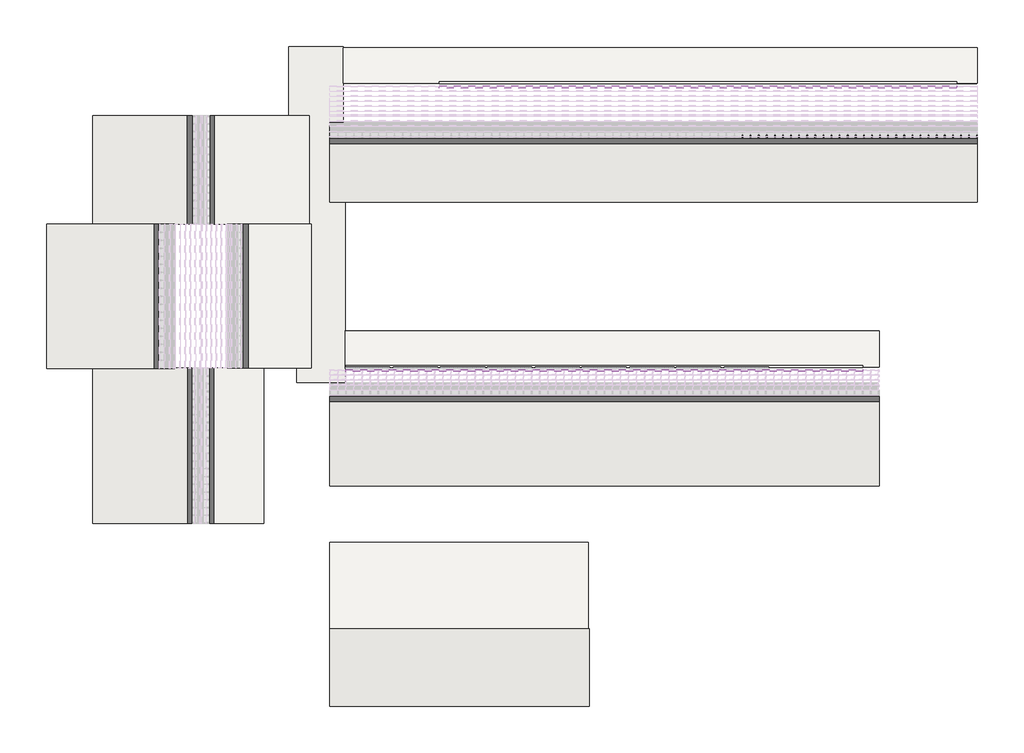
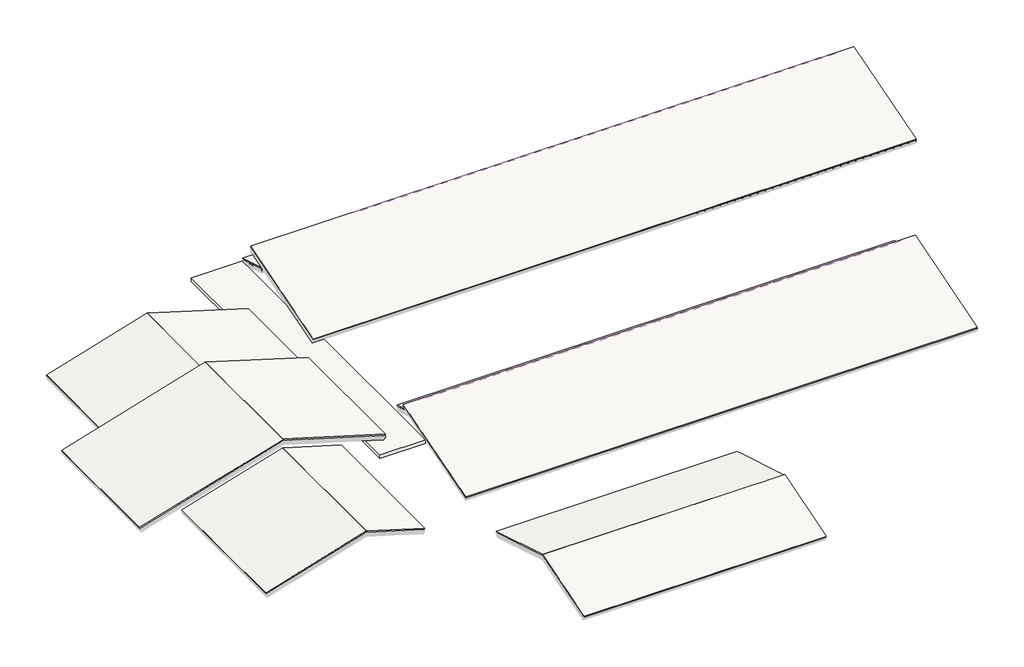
# One storey, part 57 of 57: 70 members, 32 plates, 16 roofs, 1 slab.
"""IFC4 building model written with IfcOpenShell, lengths in millimetres."""

from ifc_helpers import new_model, si_unit, frame, origin, place, context, project, spatial, polyline, outline, extrude, transform, mapped, element, save
from components import rectangular_mullion_31097d0e, rectangular_mullion_28594df3, rectangular_mullion_215ae39a, rectangular_mullion_caibro_3c31e341, rectangular_mullion_caibro_ac6bc083, rectangular_mullion_caibro_74147231, rectangular_mullion_caibro_51e85f04, empty_system_panel_vazio_61b4e04a

model = new_model("IFC4")

# Units and contexts
model_context = context("Model", 3, world=origin())
ifc_project = project(units=[si_unit("LENGTHUNIT", "METRE", prefix="MILLI")], contexts=[model_context])

# Site, building, storey
site = spatial("IfcSite", under=ifc_project)
building = spatial("IfcBuilding", under=site)
storey = spatial("IfcBuildingStorey", under=building, Name="Nível 2", Elevation=4100.0)

# Members
placement = place(None, origin())
rectangular_mullion_shape = rectangular_mullion_31097d0e(model_context)
element("IfcMember", 1, ObjectType="Rectangular Mullion : Ripa", at=placement, inside=storey, context=model_context, shape_type="MappedRepresentation", body=[
    mapped(rectangular_mullion_shape, transform((49646.9556519, 38960.383475, 3453.9015562), x_axis=(0.0, -0.957826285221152, 0.28734788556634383), y_axis=(0.0, -0.28734788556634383, -0.957826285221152), z_axis=(1.0, 0.0, 0.0))),
])
element("IfcMember", 2, ObjectType="Rectangular Mullion : Ripa", at=placement, inside=storey, context=model_context, shape_type="MappedRepresentation", body=[
    mapped(rectangular_mullion_shape, transform((49646.9556519, 38596.3300611, 3563.1175804), x_axis=(0.0, -0.957826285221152, 0.28734788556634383), y_axis=(0.0, -0.28734788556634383, -0.957826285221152), z_axis=(1.0, 0.0, 0.0))),
])
element("IfcMember", 3, ObjectType="Rectangular Mullion : Ripa", at=placement, inside=storey, context=model_context, shape_type="MappedRepresentation", body=[
    mapped(rectangular_mullion_shape, transform((49646.9556519, 38232.2766472, 3672.3336045), x_axis=(0.0, -0.957826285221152, 0.28734788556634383), y_axis=(0.0, -0.28734788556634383, -0.957826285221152), z_axis=(1.0, 0.0, 0.0))),
])
element("IfcMember", 4, ObjectType="Rectangular Mullion : Ripa", at=placement, inside=storey, context=model_context, shape_type="MappedRepresentation", body=[
    mapped(rectangular_mullion_shape, transform((49646.9556519, 37868.2232333, 3781.5496287), x_axis=(0.0, -0.957826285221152, 0.28734788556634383), y_axis=(0.0, -0.28734788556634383, -0.957826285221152), z_axis=(1.0, 0.0, 0.0))),
])
element("IfcMember", 5, ObjectType="Rectangular Mullion : Ripa", at=placement, inside=storey, context=model_context, shape_type="MappedRepresentation", body=[
    mapped(rectangular_mullion_shape, transform((49646.9556519, 37504.1698194, 3890.7656529), x_axis=(0.0, -0.957826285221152, 0.28734788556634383), y_axis=(0.0, -0.28734788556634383, -0.957826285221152), z_axis=(1.0, 0.0, 0.0))),
])
element("IfcMember", 6, ObjectType="Rectangular Mullion : Ripa", at=placement, inside=storey, context=model_context, shape_type="MappedRepresentation", body=[
    mapped(rectangular_mullion_shape, transform((49646.9556519, 37140.1164055, 3999.981677), x_axis=(0.0, -0.957826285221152, 0.28734788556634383), y_axis=(0.0, -0.28734788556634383, -0.957826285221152), z_axis=(1.0, 0.0, 0.0))),
])
element("IfcMember", 7, ObjectType="Rectangular Mullion : Ripa", at=placement, inside=storey, context=model_context, shape_type="MappedRepresentation", body=[
    mapped(rectangular_mullion_shape, transform((49646.9556519, 36776.0629917, 4109.1977012), x_axis=(0.0, -0.957826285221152, 0.28734788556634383), y_axis=(0.0, -0.28734788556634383, -0.957826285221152), z_axis=(1.0, 0.0, 0.0))),
])
rectangular_mullion_2_shape = rectangular_mullion_28594df3(model_context)
element("IfcMember", 8, ObjectType="Rectangular Mullion : Terça", at=placement, inside=storey, context=model_context, shape_type="MappedRepresentation", body=[
    mapped(rectangular_mullion_2_shape, transform((49646.9556519, 36776.0629917, 3983.9140231), x_axis=(0.0, -0.957826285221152, 0.28734788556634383), y_axis=(0.0, -0.28734788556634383, -0.957826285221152), z_axis=(1.0, 0.0, 0.0))),
])
rectangular_mullion_3_shape = rectangular_mullion_215ae39a(model_context)
element("IfcMember", 9, ObjectType="Rectangular Mullion : Terça", at=placement, inside=storey, context=model_context, shape_type="MappedRepresentation", body=[
    mapped(rectangular_mullion_3_shape, transform((49646.9556519, 38404.3676765, 3495.4226176), x_axis=(0.0, -0.957826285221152, 0.28734788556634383), y_axis=(0.0, -0.28734788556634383, -0.957826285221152), z_axis=(1.0, 0.0, 0.0))),
])
element("IfcMember", 10, ObjectType="Rectangular Mullion : Terça", at=placement, inside=storey, context=model_context, shape_type="MappedRepresentation", body=[
    mapped(rectangular_mullion_3_shape, transform((49646.9556519, 38074.1955974, 3594.4742414), x_axis=(0.0, -0.957826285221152, 0.28734788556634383), y_axis=(0.0, -0.28734788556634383, -0.957826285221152), z_axis=(1.0, 0.0, 0.0))),
])
rectangular_mullion_caibro_shape = rectangular_mullion_caibro_3c31e341(model_context)
element("IfcMember", 11, ObjectType="Rectangular Mullion : Caibro", at=placement, inside=storey, context=model_context, shape_type="MappedRepresentation", body=[
    mapped(rectangular_mullion_caibro_shape, transform((49646.9556519, 36560.5418609, 6394.8354824), x_axis=(1.0, 0.0, 0.0), y_axis=(0.0, 0.2873478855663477, -0.9578262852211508), z_axis=(0.0, 0.9578262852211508, 0.2873478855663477))),
])
rectangular_mullion_caibro_2_shape = rectangular_mullion_caibro_ac6bc083(model_context)
element("IfcMember", 12, ObjectType="Rectangular Mullion : Caibro", at=placement, inside=storey, context=model_context, shape_type="MappedRepresentation", body=[
    mapped(rectangular_mullion_caibro_2_shape, transform((32268.9258282, 36560.5418609, 6394.8354824), x_axis=(1.0, 0.0, 0.0), y_axis=(0.0, 0.2873478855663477, -0.9578262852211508), z_axis=(0.0, 0.9578262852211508, 0.2873478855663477))),
])
element("IfcMember", 13, ObjectType="Rectangular Mullion : Caibro", at=placement, inside=storey, context=model_context, shape_type="MappedRepresentation", body=[
    mapped(rectangular_mullion_caibro_2_shape, transform((32867.306167, 36560.5418609, 6394.8354824), x_axis=(1.0, 0.0, 0.0), y_axis=(0.0, 0.2873478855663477, -0.9578262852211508), z_axis=(0.0, 0.9578262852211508, 0.2873478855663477))),
])
element("IfcMember", 14, ObjectType="Rectangular Mullion : Caibro", at=placement, inside=storey, context=model_context, shape_type="MappedRepresentation", body=[
    mapped(rectangular_mullion_caibro_2_shape, transform((33465.6865057, 36560.5418609, 6394.8354824), x_axis=(1.0, 0.0, 0.0), y_axis=(0.0, 0.2873478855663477, -0.9578262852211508), z_axis=(0.0, 0.9578262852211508, 0.2873478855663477))),
])
element("IfcMember", 15, ObjectType="Rectangular Mullion : Caibro", at=placement, inside=storey, context=model_context, shape_type="MappedRepresentation", body=[
    mapped(rectangular_mullion_caibro_2_shape, transform((34064.0668444, 36560.5418609, 6394.8354824), x_axis=(1.0, 0.0, 0.0), y_axis=(0.0, 0.2873478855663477, -0.9578262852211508), z_axis=(0.0, 0.9578262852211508, 0.2873478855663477))),
])
element("IfcMember", 16, ObjectType="Rectangular Mullion : Caibro", at=placement, inside=storey, context=model_context, shape_type="MappedRepresentation", body=[
    mapped(rectangular_mullion_caibro_2_shape, transform((34662.4471832, 36560.5418609, 6394.8354824), x_axis=(1.0, 0.0, 0.0), y_axis=(0.0, 0.2873478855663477, -0.9578262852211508), z_axis=(0.0, 0.9578262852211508, 0.2873478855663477))),
])
element("IfcMember", 17, ObjectType="Rectangular Mullion : Caibro", at=placement, inside=storey, context=model_context, shape_type="MappedRepresentation", body=[
    mapped(rectangular_mullion_caibro_2_shape, transform((35260.8275219, 36560.5418609, 6394.8354824), x_axis=(1.0, 0.0, 0.0), y_axis=(0.0, 0.2873478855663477, -0.9578262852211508), z_axis=(0.0, 0.9578262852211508, 0.2873478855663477))),
])
element("IfcMember", 18, ObjectType="Rectangular Mullion : Caibro", at=placement, inside=storey, context=model_context, shape_type="MappedRepresentation", body=[
    mapped(rectangular_mullion_caibro_2_shape, transform((35859.2078607, 36560.5418609, 6394.8354824), x_axis=(1.0, 0.0, 0.0), y_axis=(0.0, 0.2873478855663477, -0.9578262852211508), z_axis=(0.0, 0.9578262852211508, 0.2873478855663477))),
])
element("IfcMember", 19, ObjectType="Rectangular Mullion : Caibro", at=placement, inside=storey, context=model_context, shape_type="MappedRepresentation", body=[
    mapped(rectangular_mullion_caibro_2_shape, transform((36457.5881994, 36560.5418609, 6394.8354824), x_axis=(1.0, 0.0, 0.0), y_axis=(0.0, 0.2873478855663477, -0.9578262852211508), z_axis=(0.0, 0.9578262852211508, 0.2873478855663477))),
])
element("IfcMember", 20, ObjectType="Rectangular Mullion : Caibro", at=placement, inside=storey, context=model_context, shape_type="MappedRepresentation", body=[
    mapped(rectangular_mullion_caibro_2_shape, transform((37055.9685381, 36560.5418609, 6394.8354824), x_axis=(1.0, 0.0, 0.0), y_axis=(0.0, 0.2873478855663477, -0.9578262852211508), z_axis=(0.0, 0.9578262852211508, 0.2873478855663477))),
])
element("IfcMember", 21, ObjectType="Rectangular Mullion : Caibro", at=placement, inside=storey, context=model_context, shape_type="MappedRepresentation", body=[
    mapped(rectangular_mullion_caibro_2_shape, transform((37654.3488769, 36560.5418609, 6394.8354824), x_axis=(1.0, 0.0, 0.0), y_axis=(0.0, 0.2873478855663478, -0.9578262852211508), z_axis=(0.0, 0.9578262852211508, 0.2873478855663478))),
])
element("IfcMember", 22, ObjectType="Rectangular Mullion : Caibro", at=placement, inside=storey, context=model_context, shape_type="MappedRepresentation", body=[
    mapped(rectangular_mullion_caibro_2_shape, transform((38252.7292156, 36560.5418609, 6394.8354824), x_axis=(1.0, 0.0, 0.0), y_axis=(0.0, 0.2873478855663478, -0.9578262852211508), z_axis=(0.0, 0.9578262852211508, 0.2873478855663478))),
])
element("IfcMember", 23, ObjectType="Rectangular Mullion : Caibro", at=placement, inside=storey, context=model_context, shape_type="MappedRepresentation", body=[
    mapped(rectangular_mullion_caibro_2_shape, transform((38851.1095543, 36560.5418609, 6394.8354824), x_axis=(1.0, 0.0, 0.0), y_axis=(0.0, 0.2873478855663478, -0.9578262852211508), z_axis=(0.0, 0.9578262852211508, 0.2873478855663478))),
])
element("IfcMember", 24, ObjectType="Rectangular Mullion : Caibro", at=placement, inside=storey, context=model_context, shape_type="MappedRepresentation", body=[
    mapped(rectangular_mullion_caibro_2_shape, transform((39449.4898931, 36560.5418609, 6394.8354824), x_axis=(1.0, 0.0, 0.0), y_axis=(0.0, 0.2873478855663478, -0.9578262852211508), z_axis=(0.0, 0.9578262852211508, 0.2873478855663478))),
])
element("IfcMember", 25, ObjectType="Rectangular Mullion : Caibro", at=placement, inside=storey, context=model_context, shape_type="MappedRepresentation", body=[
    mapped(rectangular_mullion_caibro_2_shape, transform((40047.8702318, 36560.5418609, 6394.8354824), x_axis=(1.0, 0.0, 0.0), y_axis=(0.0, 0.2873478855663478, -0.9578262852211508), z_axis=(0.0, 0.9578262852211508, 0.2873478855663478))),
])
element("IfcMember", 26, ObjectType="Rectangular Mullion : Caibro", at=placement, inside=storey, context=model_context, shape_type="MappedRepresentation", body=[
    mapped(rectangular_mullion_caibro_2_shape, transform((40646.2505705, 36560.5418609, 6394.8354824), x_axis=(1.0, 0.0, 0.0), y_axis=(0.0, 0.2873478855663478, -0.9578262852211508), z_axis=(0.0, 0.9578262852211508, 0.2873478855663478))),
])
element("IfcMember", 27, ObjectType="Rectangular Mullion : Caibro", at=placement, inside=storey, context=model_context, shape_type="MappedRepresentation", body=[
    mapped(rectangular_mullion_caibro_2_shape, transform((41244.6309093, 36560.5418609, 6394.8354824), x_axis=(1.0, 0.0, 0.0), y_axis=(0.0, 0.2873478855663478, -0.9578262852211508), z_axis=(0.0, 0.9578262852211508, 0.2873478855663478))),
])
element("IfcMember", 28, ObjectType="Rectangular Mullion : Caibro", at=placement, inside=storey, context=model_context, shape_type="MappedRepresentation", body=[
    mapped(rectangular_mullion_caibro_2_shape, transform((41843.011248, 36560.5418609, 6394.8354824), x_axis=(1.0, 0.0, 0.0), y_axis=(0.0, 0.2873478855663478, -0.9578262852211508), z_axis=(0.0, 0.9578262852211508, 0.2873478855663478))),
])
element("IfcMember", 29, ObjectType="Rectangular Mullion : Caibro", at=placement, inside=storey, context=model_context, shape_type="MappedRepresentation", body=[
    mapped(rectangular_mullion_caibro_2_shape, transform((42441.3915867, 36560.5418609, 6394.8354824), x_axis=(1.0, 0.0, 0.0), y_axis=(0.0, 0.2873478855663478, -0.9578262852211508), z_axis=(0.0, 0.9578262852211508, 0.2873478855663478))),
])
element("IfcMember", 30, ObjectType="Rectangular Mullion : Caibro", at=placement, inside=storey, context=model_context, shape_type="MappedRepresentation", body=[
    mapped(rectangular_mullion_caibro_2_shape, transform((43039.7719255, 36560.5418609, 6394.8354824), x_axis=(1.0, 0.0, 0.0), y_axis=(0.0, 0.2873478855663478, -0.9578262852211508), z_axis=(0.0, 0.9578262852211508, 0.2873478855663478))),
])
element("IfcMember", 31, ObjectType="Rectangular Mullion : Caibro", at=placement, inside=storey, context=model_context, shape_type="MappedRepresentation", body=[
    mapped(rectangular_mullion_caibro_2_shape, transform((43638.1522642, 36560.5418609, 6394.8354824), x_axis=(1.0, 0.0, 0.0), y_axis=(0.0, 0.2873478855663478, -0.9578262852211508), z_axis=(0.0, 0.9578262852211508, 0.2873478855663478))),
])
element("IfcMember", 32, ObjectType="Rectangular Mullion : Caibro", at=placement, inside=storey, context=model_context, shape_type="MappedRepresentation", body=[
    mapped(rectangular_mullion_caibro_2_shape, transform((44236.5326029, 36560.5418609, 6394.8354824), x_axis=(1.0, 0.0, 0.0), y_axis=(0.0, 0.2873478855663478, -0.9578262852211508), z_axis=(0.0, 0.9578262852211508, 0.2873478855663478))),
])
element("IfcMember", 33, ObjectType="Rectangular Mullion : Caibro", at=placement, inside=storey, context=model_context, shape_type="MappedRepresentation", body=[
    mapped(rectangular_mullion_caibro_2_shape, transform((44834.9129417, 36560.5418609, 6394.8354824), x_axis=(1.0, 0.0, 0.0), y_axis=(0.0, 0.2873478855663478, -0.9578262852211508), z_axis=(0.0, 0.9578262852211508, 0.2873478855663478))),
])
element("IfcMember", 34, ObjectType="Rectangular Mullion : Caibro", at=placement, inside=storey, context=model_context, shape_type="MappedRepresentation", body=[
    mapped(rectangular_mullion_caibro_2_shape, transform((45433.2932804, 36560.5418609, 6394.8354824), x_axis=(1.0, 0.0, 0.0), y_axis=(0.0, 0.2873478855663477, -0.9578262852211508), z_axis=(0.0, 0.9578262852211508, 0.2873478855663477))),
])
element("IfcMember", 35, ObjectType="Rectangular Mullion : Caibro", at=placement, inside=storey, context=model_context, shape_type="MappedRepresentation", body=[
    mapped(rectangular_mullion_caibro_2_shape, transform((46031.6736191, 36560.5418609, 6394.8354824), x_axis=(1.0, 0.0, 0.0), y_axis=(0.0, 0.2873478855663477, -0.9578262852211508), z_axis=(0.0, 0.9578262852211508, 0.2873478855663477))),
])
element("IfcMember", 36, ObjectType="Rectangular Mullion : Caibro", at=placement, inside=storey, context=model_context, shape_type="MappedRepresentation", body=[
    mapped(rectangular_mullion_caibro_2_shape, transform((46630.0539579, 36560.5418609, 6394.8354824), x_axis=(1.0, 0.0, 0.0), y_axis=(0.0, 0.2873478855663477, -0.9578262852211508), z_axis=(0.0, 0.9578262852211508, 0.2873478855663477))),
])
element("IfcMember", 37, ObjectType="Rectangular Mullion : Caibro", at=placement, inside=storey, context=model_context, shape_type="MappedRepresentation", body=[
    mapped(rectangular_mullion_caibro_2_shape, transform((47228.4342966, 36560.5418609, 6394.8354824), x_axis=(1.0, 0.0, 0.0), y_axis=(0.0, 0.2873478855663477, -0.9578262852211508), z_axis=(0.0, 0.9578262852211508, 0.2873478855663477))),
])
element("IfcMember", 38, ObjectType="Rectangular Mullion : Caibro", at=placement, inside=storey, context=model_context, shape_type="MappedRepresentation", body=[
    mapped(rectangular_mullion_caibro_2_shape, transform((47826.8146353, 36560.5418609, 6394.8354824), x_axis=(1.0, 0.0, 0.0), y_axis=(0.0, 0.2873478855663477, -0.9578262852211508), z_axis=(0.0, 0.9578262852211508, 0.2873478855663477))),
])
element("IfcMember", 39, ObjectType="Rectangular Mullion : Caibro", at=placement, inside=storey, context=model_context, shape_type="MappedRepresentation", body=[
    mapped(rectangular_mullion_caibro_2_shape, transform((48425.1949741, 36560.5418609, 6394.8354824), x_axis=(1.0, 0.0, 0.0), y_axis=(0.0, 0.2873478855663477, -0.9578262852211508), z_axis=(0.0, 0.9578262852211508, 0.2873478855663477))),
])
element("IfcMember", 40, ObjectType="Rectangular Mullion : Caibro", at=placement, inside=storey, context=model_context, shape_type="MappedRepresentation", body=[
    mapped(rectangular_mullion_caibro_2_shape, transform((49023.5753128, 36560.5418609, 6394.8354824), x_axis=(1.0, 0.0, 0.0), y_axis=(0.0, 0.2873478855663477, -0.9578262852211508), z_axis=(0.0, 0.9578262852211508, 0.2873478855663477))),
])
rectangular_mullion_caibro_3_shape = rectangular_mullion_caibro_74147231(model_context)
element("IfcMember", 41, ObjectType="Rectangular Mullion : Caibro", at=placement, inside=storey, context=model_context, shape_type="MappedRepresentation", body=[
    mapped(rectangular_mullion_caibro_3_shape, transform((49646.9556519, 39372.3282031, 3330.3181378), x_axis=(1.0, 0.0, 0.0), y_axis=(0.0, -0.2873478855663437, -0.9578262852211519), z_axis=(0.0, 0.9578262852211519, -0.2873478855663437))),
])
rectangular_mullion_caibro_4_shape = rectangular_mullion_caibro_51e85f04(model_context)
element("IfcMember", 42, ObjectType="Rectangular Mullion : Caibro", at=placement, inside=storey, context=model_context, shape_type="MappedRepresentation", body=[
    mapped(rectangular_mullion_caibro_4_shape, transform((49028.659106, 36776.0629917, 4109.1977012), x_axis=(-1.0, 0.0, 0.0), y_axis=(0.0, -0.2873478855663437, -0.9578262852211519), z_axis=(0.0, -0.9578262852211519, 0.2873478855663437))),
])
element("IfcMember", 43, ObjectType="Rectangular Mullion : Caibro", at=placement, inside=storey, context=model_context, shape_type="MappedRepresentation", body=[
    mapped(rectangular_mullion_caibro_4_shape, transform((48435.3625604, 36776.0629917, 4109.1977012), x_axis=(-1.0, 0.0, 0.0), y_axis=(0.0, -0.2873478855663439, -0.9578262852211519), z_axis=(0.0, -0.9578262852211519, 0.2873478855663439))),
])
element("IfcMember", 44, ObjectType="Rectangular Mullion : Caibro", at=placement, inside=storey, context=model_context, shape_type="MappedRepresentation", body=[
    mapped(rectangular_mullion_caibro_4_shape, transform((47842.0660149, 36776.0629917, 4109.1977012), x_axis=(-1.0, 0.0, 0.0), y_axis=(0.0, -0.2873478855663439, -0.9578262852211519), z_axis=(0.0, -0.9578262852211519, 0.2873478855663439))),
])
element("IfcMember", 45, ObjectType="Rectangular Mullion : Caibro", at=placement, inside=storey, context=model_context, shape_type="MappedRepresentation", body=[
    mapped(rectangular_mullion_caibro_4_shape, transform((47248.7694693, 36776.0629917, 4109.1977012), x_axis=(-1.0, 0.0, 0.0), y_axis=(0.0, -0.2873478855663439, -0.9578262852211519), z_axis=(0.0, -0.9578262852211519, 0.2873478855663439))),
])
element("IfcMember", 46, ObjectType="Rectangular Mullion : Caibro", at=placement, inside=storey, context=model_context, shape_type="MappedRepresentation", body=[
    mapped(rectangular_mullion_caibro_4_shape, transform((46655.4729238, 36776.0629917, 4109.1977012), x_axis=(-1.0, 0.0, 0.0), y_axis=(0.0, -0.2873478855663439, -0.9578262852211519), z_axis=(0.0, -0.9578262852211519, 0.2873478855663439))),
])
element("IfcMember", 47, ObjectType="Rectangular Mullion : Caibro", at=placement, inside=storey, context=model_context, shape_type="MappedRepresentation", body=[
    mapped(rectangular_mullion_caibro_4_shape, transform((46062.1763782, 36776.0629917, 4109.1977012), x_axis=(-1.0, 0.0, 0.0), y_axis=(0.0, -0.2873478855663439, -0.9578262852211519), z_axis=(0.0, -0.9578262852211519, 0.2873478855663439))),
])
element("IfcMember", 48, ObjectType="Rectangular Mullion : Caibro", at=placement, inside=storey, context=model_context, shape_type="MappedRepresentation", body=[
    mapped(rectangular_mullion_caibro_4_shape, transform((45468.8798327, 36776.0629917, 4109.1977012), x_axis=(-1.0, 0.0, 0.0), y_axis=(0.0, -0.2873478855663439, -0.9578262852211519), z_axis=(0.0, -0.9578262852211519, 0.2873478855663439))),
])
element("IfcMember", 49, ObjectType="Rectangular Mullion : Caibro", at=placement, inside=storey, context=model_context, shape_type="MappedRepresentation", body=[
    mapped(rectangular_mullion_caibro_4_shape, transform((44875.5832871, 36776.0629917, 4109.1977012), x_axis=(-1.0, 0.0, 0.0), y_axis=(0.0, -0.2873478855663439, -0.9578262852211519), z_axis=(0.0, -0.9578262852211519, 0.2873478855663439))),
])
element("IfcMember", 50, ObjectType="Rectangular Mullion : Caibro", at=placement, inside=storey, context=model_context, shape_type="MappedRepresentation", body=[
    mapped(rectangular_mullion_caibro_4_shape, transform((44282.2867416, 36776.0629917, 4109.1977012), x_axis=(-1.0, 0.0, 0.0), y_axis=(0.0, -0.2873478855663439, -0.9578262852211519), z_axis=(0.0, -0.9578262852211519, 0.2873478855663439))),
])
element("IfcMember", 51, ObjectType="Rectangular Mullion : Caibro", at=placement, inside=storey, context=model_context, shape_type="MappedRepresentation", body=[
    mapped(rectangular_mullion_caibro_4_shape, transform((43688.990196, 36776.0629917, 4109.1977012), x_axis=(-1.0, 0.0, 0.0), y_axis=(0.0, -0.2873478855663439, -0.9578262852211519), z_axis=(0.0, -0.9578262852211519, 0.2873478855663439))),
])
element("IfcMember", 52, ObjectType="Rectangular Mullion : Caibro", at=placement, inside=storey, context=model_context, shape_type="MappedRepresentation", body=[
    mapped(rectangular_mullion_caibro_4_shape, transform((43095.6936505, 36776.0629917, 4109.1977012), x_axis=(-1.0, 0.0, 0.0), y_axis=(0.0, -0.2873478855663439, -0.9578262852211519), z_axis=(0.0, -0.9578262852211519, 0.2873478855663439))),
])
element("IfcMember", 53, ObjectType="Rectangular Mullion : Caibro", at=placement, inside=storey, context=model_context, shape_type="MappedRepresentation", body=[
    mapped(rectangular_mullion_caibro_4_shape, transform((42502.3971049, 36776.0629917, 4109.1977012), x_axis=(-1.0, 0.0, 0.0), y_axis=(0.0, -0.2873478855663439, -0.9578262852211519), z_axis=(0.0, -0.9578262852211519, 0.2873478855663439))),
])
element("IfcMember", 54, ObjectType="Rectangular Mullion : Caibro", at=placement, inside=storey, context=model_context, shape_type="MappedRepresentation", body=[
    mapped(rectangular_mullion_caibro_4_shape, transform((41909.1005593, 36776.0629917, 4109.1977012), x_axis=(-1.0, 0.0, 0.0), y_axis=(0.0, -0.2873478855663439, -0.9578262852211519), z_axis=(0.0, -0.9578262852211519, 0.2873478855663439))),
])
element("IfcMember", 55, ObjectType="Rectangular Mullion : Caibro", at=placement, inside=storey, context=model_context, shape_type="MappedRepresentation", body=[
    mapped(rectangular_mullion_caibro_4_shape, transform((41315.8040138, 36776.0629917, 4109.1977012), x_axis=(-1.0, 0.0, 0.0), y_axis=(0.0, -0.2873478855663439, -0.9578262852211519), z_axis=(0.0, -0.9578262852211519, 0.2873478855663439))),
])
element("IfcMember", 56, ObjectType="Rectangular Mullion : Caibro", at=placement, inside=storey, context=model_context, shape_type="MappedRepresentation", body=[
    mapped(rectangular_mullion_caibro_4_shape, transform((40722.5074682, 36776.0629917, 4109.1977012), x_axis=(-1.0, 0.0, 0.0), y_axis=(0.0, -0.2873478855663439, -0.9578262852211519), z_axis=(0.0, -0.9578262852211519, 0.2873478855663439))),
])
element("IfcMember", 57, ObjectType="Rectangular Mullion : Caibro", at=placement, inside=storey, context=model_context, shape_type="MappedRepresentation", body=[
    mapped(rectangular_mullion_caibro_4_shape, transform((40129.2109227, 36776.0629917, 4109.1977012), x_axis=(-1.0, 0.0, 0.0), y_axis=(0.0, -0.2873478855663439, -0.9578262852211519), z_axis=(0.0, -0.9578262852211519, 0.2873478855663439))),
])
element("IfcMember", 58, ObjectType="Rectangular Mullion : Caibro", at=placement, inside=storey, context=model_context, shape_type="MappedRepresentation", body=[
    mapped(rectangular_mullion_caibro_4_shape, transform((39535.9143771, 36776.0629917, 4109.1977012), x_axis=(-1.0, 0.0, 0.0), y_axis=(0.0, -0.2873478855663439, -0.9578262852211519), z_axis=(0.0, -0.9578262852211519, 0.2873478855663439))),
])
element("IfcMember", 59, ObjectType="Rectangular Mullion : Caibro", at=placement, inside=storey, context=model_context, shape_type="MappedRepresentation", body=[
    mapped(rectangular_mullion_caibro_4_shape, transform((38942.6178316, 36776.0629917, 4109.1977012), x_axis=(-1.0, 0.0, 0.0), y_axis=(0.0, -0.2873478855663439, -0.9578262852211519), z_axis=(0.0, -0.9578262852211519, 0.2873478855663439))),
])
element("IfcMember", 60, ObjectType="Rectangular Mullion : Caibro", at=placement, inside=storey, context=model_context, shape_type="MappedRepresentation", body=[
    mapped(rectangular_mullion_caibro_4_shape, transform((38349.321286, 36776.0629917, 4109.1977012), x_axis=(-1.0, 0.0, 0.0), y_axis=(0.0, -0.2873478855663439, -0.9578262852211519), z_axis=(0.0, -0.9578262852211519, 0.2873478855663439))),
])
element("IfcMember", 61, ObjectType="Rectangular Mullion : Caibro", at=placement, inside=storey, context=model_context, shape_type="MappedRepresentation", body=[
    mapped(rectangular_mullion_caibro_4_shape, transform((37756.0247405, 36776.0629917, 4109.1977012), x_axis=(-1.0, 0.0, 0.0), y_axis=(0.0, -0.2873478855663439, -0.9578262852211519), z_axis=(0.0, -0.9578262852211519, 0.2873478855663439))),
])
element("IfcMember", 62, ObjectType="Rectangular Mullion : Caibro", at=placement, inside=storey, context=model_context, shape_type="MappedRepresentation", body=[
    mapped(rectangular_mullion_caibro_4_shape, transform((37162.7281949, 36776.0629917, 4109.1977012), x_axis=(-1.0, 0.0, 0.0), y_axis=(0.0, -0.2873478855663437, -0.9578262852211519), z_axis=(0.0, -0.9578262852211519, 0.2873478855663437))),
])
element("IfcMember", 63, ObjectType="Rectangular Mullion : Caibro", at=placement, inside=storey, context=model_context, shape_type="MappedRepresentation", body=[
    mapped(rectangular_mullion_caibro_4_shape, transform((36569.4316494, 36776.0629917, 4109.1977012), x_axis=(-1.0, 0.0, 0.0), y_axis=(0.0, -0.2873478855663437, -0.9578262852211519), z_axis=(0.0, -0.9578262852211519, 0.2873478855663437))),
])
element("IfcMember", 64, ObjectType="Rectangular Mullion : Caibro", at=placement, inside=storey, context=model_context, shape_type="MappedRepresentation", body=[
    mapped(rectangular_mullion_caibro_4_shape, transform((35976.1351038, 36776.0629917, 4109.1977012), x_axis=(-1.0, 0.0, 0.0), y_axis=(0.0, -0.2873478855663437, -0.9578262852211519), z_axis=(0.0, -0.9578262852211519, 0.2873478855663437))),
])
element("IfcMember", 65, ObjectType="Rectangular Mullion : Caibro", at=placement, inside=storey, context=model_context, shape_type="MappedRepresentation", body=[
    mapped(rectangular_mullion_caibro_4_shape, transform((35382.8385583, 36776.0629917, 4109.1977012), x_axis=(-1.0, 0.0, 0.0), y_axis=(0.0, -0.2873478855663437, -0.9578262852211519), z_axis=(0.0, -0.9578262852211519, 0.2873478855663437))),
])
element("IfcMember", 66, ObjectType="Rectangular Mullion : Caibro", at=placement, inside=storey, context=model_context, shape_type="MappedRepresentation", body=[
    mapped(rectangular_mullion_caibro_4_shape, transform((34789.5420127, 36776.0629917, 4109.1977012), x_axis=(-1.0, 0.0, 0.0), y_axis=(0.0, -0.2873478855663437, -0.9578262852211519), z_axis=(0.0, -0.9578262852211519, 0.2873478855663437))),
])
element("IfcMember", 67, ObjectType="Rectangular Mullion : Caibro", at=placement, inside=storey, context=model_context, shape_type="MappedRepresentation", body=[
    mapped(rectangular_mullion_caibro_4_shape, transform((34196.2454671, 36776.0629917, 4109.1977012), x_axis=(-1.0, 0.0, 0.0), y_axis=(0.0, -0.2873478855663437, -0.9578262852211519), z_axis=(0.0, -0.9578262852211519, 0.2873478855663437))),
])
element("IfcMember", 68, ObjectType="Rectangular Mullion : Caibro", at=placement, inside=storey, context=model_context, shape_type="MappedRepresentation", body=[
    mapped(rectangular_mullion_caibro_4_shape, transform((33602.9489216, 36776.0629917, 4109.1977012), x_axis=(-1.0, 0.0, 0.0), y_axis=(0.0, -0.2873478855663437, -0.9578262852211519), z_axis=(0.0, -0.9578262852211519, 0.2873478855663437))),
])
element("IfcMember", 69, ObjectType="Rectangular Mullion : Caibro", at=placement, inside=storey, context=model_context, shape_type="MappedRepresentation", body=[
    mapped(rectangular_mullion_caibro_4_shape, transform((33009.652376, 36776.0629917, 4109.1977012), x_axis=(-1.0, 0.0, 0.0), y_axis=(0.0, -0.2873478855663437, -0.9578262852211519), z_axis=(0.0, -0.9578262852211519, 0.2873478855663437))),
])
element("IfcMember", 70, ObjectType="Rectangular Mullion : Caibro", at=placement, inside=storey, context=model_context, shape_type="MappedRepresentation", body=[
    mapped(rectangular_mullion_caibro_4_shape, transform((32416.3558305, 36776.0629917, 4109.1977012), x_axis=(-1.0, 0.0, 0.0), y_axis=(0.0, -0.2873478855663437, -0.9578262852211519), z_axis=(0.0, -0.9578262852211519, 0.2873478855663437))),
])

# Plates
empty_system_panel_vazio_shape = empty_system_panel_vazio_61b4e04a(model_context)
element("IfcPlate", 71, ObjectType="Empty System Panel : Vazio", at=placement, inside=storey, context=model_context, shape_type="MappedRepresentation", body=[
    mapped(empty_system_panel_vazio_shape, transform((49325.3073789, 39372.3282031, 3330.3181378), x_axis=(-1.0, 0.0, 0.0), y_axis=(0.0, -0.28734788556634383, -0.957826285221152), z_axis=(0.0, -0.957826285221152, 0.28734788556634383))),
])
element("IfcPlate", 72, ObjectType="Empty System Panel : Vazio", at=placement, inside=storey, context=model_context, shape_type="MappedRepresentation", body=[
    mapped(empty_system_panel_vazio_shape, transform((48732.0108332, 39372.3282031, 3330.3181378), x_axis=(-1.0, 0.0, 0.0), y_axis=(0.0, -0.28734788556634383, -0.957826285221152), z_axis=(0.0, -0.957826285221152, 0.28734788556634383))),
])
element("IfcPlate", 73, ObjectType="Empty System Panel : Vazio", at=placement, inside=storey, context=model_context, shape_type="MappedRepresentation", body=[
    mapped(empty_system_panel_vazio_shape, transform((48138.7142877, 39372.3282031, 3330.3181378), x_axis=(-1.0, 0.0, 0.0), y_axis=(0.0, -0.28734788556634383, -0.957826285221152), z_axis=(0.0, -0.957826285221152, 0.28734788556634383))),
])
element("IfcPlate", 74, ObjectType="Empty System Panel : Vazio", at=placement, inside=storey, context=model_context, shape_type="MappedRepresentation", body=[
    mapped(empty_system_panel_vazio_shape, transform((47545.4177421, 39372.3282031, 3330.3181378), x_axis=(-1.0, 0.0, 0.0), y_axis=(0.0, -0.28734788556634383, -0.957826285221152), z_axis=(0.0, -0.957826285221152, 0.28734788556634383))),
])
element("IfcPlate", 75, ObjectType="Empty System Panel : Vazio", at=placement, inside=storey, context=model_context, shape_type="MappedRepresentation", body=[
    mapped(empty_system_panel_vazio_shape, transform((46952.1211966, 39372.3282031, 3330.3181378), x_axis=(-1.0, 0.0, 0.0), y_axis=(0.0, -0.28734788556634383, -0.957826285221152), z_axis=(0.0, -0.957826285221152, 0.28734788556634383))),
])
element("IfcPlate", 76, ObjectType="Empty System Panel : Vazio", at=placement, inside=storey, context=model_context, shape_type="MappedRepresentation", body=[
    mapped(empty_system_panel_vazio_shape, transform((46358.824651, 39372.3282031, 3330.3181378), x_axis=(-1.0, 0.0, 0.0), y_axis=(0.0, -0.28734788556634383, -0.957826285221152), z_axis=(0.0, -0.957826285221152, 0.28734788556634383))),
])
element("IfcPlate", 77, ObjectType="Empty System Panel : Vazio", at=placement, inside=storey, context=model_context, shape_type="MappedRepresentation", body=[
    mapped(empty_system_panel_vazio_shape, transform((45765.5281054, 39372.3282031, 3330.3181378), x_axis=(-1.0, 0.0, 0.0), y_axis=(0.0, -0.28734788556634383, -0.957826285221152), z_axis=(0.0, -0.957826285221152, 0.28734788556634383))),
])
element("IfcPlate", 78, ObjectType="Empty System Panel : Vazio", at=placement, inside=storey, context=model_context, shape_type="MappedRepresentation", body=[
    mapped(empty_system_panel_vazio_shape, transform((45172.2315599, 39372.3282031, 3330.3181378), x_axis=(-1.0, 0.0, 0.0), y_axis=(0.0, -0.28734788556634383, -0.957826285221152), z_axis=(0.0, -0.957826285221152, 0.28734788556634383))),
])
element("IfcPlate", 79, ObjectType="Empty System Panel : Vazio", at=placement, inside=storey, context=model_context, shape_type="MappedRepresentation", body=[
    mapped(empty_system_panel_vazio_shape, transform((44578.9350143, 39372.3282031, 3330.3181378), x_axis=(-1.0, 0.0, 0.0), y_axis=(0.0, -0.28734788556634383, -0.957826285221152), z_axis=(0.0, -0.957826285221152, 0.28734788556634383))),
])
element("IfcPlate", 80, ObjectType="Empty System Panel : Vazio", at=placement, inside=storey, context=model_context, shape_type="MappedRepresentation", body=[
    mapped(empty_system_panel_vazio_shape, transform((43985.6384688, 39372.3282031, 3330.3181378), x_axis=(-1.0, 0.0, 0.0), y_axis=(0.0, -0.28734788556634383, -0.957826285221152), z_axis=(0.0, -0.957826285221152, 0.28734788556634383))),
])
element("IfcPlate", 81, ObjectType="Empty System Panel : Vazio", at=placement, inside=storey, context=model_context, shape_type="MappedRepresentation", body=[
    mapped(empty_system_panel_vazio_shape, transform((43392.3419232, 39372.3282031, 3330.3181378), x_axis=(-1.0, 0.0, 0.0), y_axis=(0.0, -0.28734788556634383, -0.957826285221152), z_axis=(0.0, -0.957826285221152, 0.28734788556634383))),
])
element("IfcPlate", 82, ObjectType="Empty System Panel : Vazio", at=placement, inside=storey, context=model_context, shape_type="MappedRepresentation", body=[
    mapped(empty_system_panel_vazio_shape, transform((42799.0453777, 39372.3282031, 3330.3181378), x_axis=(-1.0, 0.0, 0.0), y_axis=(0.0, -0.28734788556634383, -0.957826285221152), z_axis=(0.0, -0.957826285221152, 0.28734788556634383))),
])
element("IfcPlate", 83, ObjectType="Empty System Panel : Vazio", at=placement, inside=storey, context=model_context, shape_type="MappedRepresentation", body=[
    mapped(empty_system_panel_vazio_shape, transform((42205.7488321, 39372.3282031, 3330.3181378), x_axis=(-1.0, 0.0, 0.0), y_axis=(0.0, -0.28734788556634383, -0.957826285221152), z_axis=(0.0, -0.957826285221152, 0.28734788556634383))),
])
element("IfcPlate", 84, ObjectType="Empty System Panel : Vazio", at=placement, inside=storey, context=model_context, shape_type="MappedRepresentation", body=[
    mapped(empty_system_panel_vazio_shape, transform((41612.4522866, 39372.3282031, 3330.3181378), x_axis=(-1.0, 0.0, 0.0), y_axis=(0.0, -0.28734788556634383, -0.957826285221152), z_axis=(0.0, -0.957826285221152, 0.28734788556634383))),
])
element("IfcPlate", 85, ObjectType="Empty System Panel : Vazio", at=placement, inside=storey, context=model_context, shape_type="MappedRepresentation", body=[
    mapped(empty_system_panel_vazio_shape, transform((41019.155741, 39372.3282031, 3330.3181378), x_axis=(-1.0, 0.0, 0.0), y_axis=(0.0, -0.28734788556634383, -0.957826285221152), z_axis=(0.0, -0.957826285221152, 0.28734788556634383))),
])
element("IfcPlate", 86, ObjectType="Empty System Panel : Vazio", at=placement, inside=storey, context=model_context, shape_type="MappedRepresentation", body=[
    mapped(empty_system_panel_vazio_shape, transform((40425.8591955, 39372.3282031, 3330.3181378), x_axis=(-1.0, 0.0, 0.0), y_axis=(0.0, -0.28734788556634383, -0.957826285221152), z_axis=(0.0, -0.957826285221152, 0.28734788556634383))),
])
element("IfcPlate", 87, ObjectType="Empty System Panel : Vazio", at=placement, inside=storey, context=model_context, shape_type="MappedRepresentation", body=[
    mapped(empty_system_panel_vazio_shape, transform((39832.5626499, 39372.3282031, 3330.3181378), x_axis=(-1.0, 0.0, 0.0), y_axis=(0.0, -0.28734788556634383, -0.957826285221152), z_axis=(0.0, -0.957826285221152, 0.28734788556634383))),
])
element("IfcPlate", 88, ObjectType="Empty System Panel : Vazio", at=placement, inside=storey, context=model_context, shape_type="MappedRepresentation", body=[
    mapped(empty_system_panel_vazio_shape, transform((39239.2661044, 39372.3282031, 3330.3181378), x_axis=(-1.0, 0.0, 0.0), y_axis=(0.0, -0.28734788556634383, -0.957826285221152), z_axis=(0.0, -0.957826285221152, 0.28734788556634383))),
])
element("IfcPlate", 89, ObjectType="Empty System Panel : Vazio", at=placement, inside=storey, context=model_context, shape_type="MappedRepresentation", body=[
    mapped(empty_system_panel_vazio_shape, transform((38645.9695588, 39372.3282031, 3330.3181378), x_axis=(-1.0, 0.0, 0.0), y_axis=(0.0, -0.28734788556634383, -0.957826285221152), z_axis=(0.0, -0.957826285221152, 0.28734788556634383))),
])
element("IfcPlate", 90, ObjectType="Empty System Panel : Vazio", at=placement, inside=storey, context=model_context, shape_type="MappedRepresentation", body=[
    mapped(empty_system_panel_vazio_shape, transform((38052.6730132, 39372.3282031, 3330.3181378), x_axis=(-1.0, 0.0, 0.0), y_axis=(0.0, -0.28734788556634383, -0.957826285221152), z_axis=(0.0, -0.957826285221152, 0.28734788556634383))),
])
element("IfcPlate", 91, ObjectType="Empty System Panel : Vazio", at=placement, inside=storey, context=model_context, shape_type="MappedRepresentation", body=[
    mapped(empty_system_panel_vazio_shape, transform((37459.3764677, 39372.3282031, 3330.3181378), x_axis=(-1.0, 0.0, 0.0), y_axis=(0.0, -0.28734788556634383, -0.957826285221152), z_axis=(0.0, -0.957826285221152, 0.28734788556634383))),
])
element("IfcPlate", 92, ObjectType="Empty System Panel : Vazio", at=placement, inside=storey, context=model_context, shape_type="MappedRepresentation", body=[
    mapped(empty_system_panel_vazio_shape, transform((36866.0799221, 39372.3282031, 3330.3181378), x_axis=(-1.0, 0.0, 0.0), y_axis=(0.0, -0.28734788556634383, -0.957826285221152), z_axis=(0.0, -0.957826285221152, 0.28734788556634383))),
])
element("IfcPlate", 93, ObjectType="Empty System Panel : Vazio", at=placement, inside=storey, context=model_context, shape_type="MappedRepresentation", body=[
    mapped(empty_system_panel_vazio_shape, transform((36272.7833766, 39372.3282031, 3330.3181378), x_axis=(-1.0, 0.0, 0.0), y_axis=(0.0, -0.28734788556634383, -0.957826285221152), z_axis=(0.0, -0.957826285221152, 0.28734788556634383))),
])
element("IfcPlate", 94, ObjectType="Empty System Panel : Vazio", at=placement, inside=storey, context=model_context, shape_type="MappedRepresentation", body=[
    mapped(empty_system_panel_vazio_shape, transform((35679.486831, 39372.3282031, 3330.3181378), x_axis=(-1.0, 0.0, 0.0), y_axis=(0.0, -0.28734788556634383, -0.957826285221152), z_axis=(0.0, -0.957826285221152, 0.28734788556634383))),
])
element("IfcPlate", 95, ObjectType="Empty System Panel : Vazio", at=placement, inside=storey, context=model_context, shape_type="MappedRepresentation", body=[
    mapped(empty_system_panel_vazio_shape, transform((35086.1902855, 39372.3282031, 3330.3181378), x_axis=(-1.0, 0.0, 0.0), y_axis=(0.0, -0.28734788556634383, -0.957826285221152), z_axis=(0.0, -0.957826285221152, 0.28734788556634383))),
])
element("IfcPlate", 96, ObjectType="Empty System Panel : Vazio", at=placement, inside=storey, context=model_context, shape_type="MappedRepresentation", body=[
    mapped(empty_system_panel_vazio_shape, transform((34492.8937399, 39372.3282031, 3330.3181378), x_axis=(-1.0, 0.0, 0.0), y_axis=(0.0, -0.28734788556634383, -0.957826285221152), z_axis=(0.0, -0.957826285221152, 0.28734788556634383))),
])
element("IfcPlate", 97, ObjectType="Empty System Panel : Vazio", at=placement, inside=storey, context=model_context, shape_type="MappedRepresentation", body=[
    mapped(empty_system_panel_vazio_shape, transform((33899.5971944, 39372.3282031, 3330.3181378), x_axis=(-1.0, 0.0, 0.0), y_axis=(0.0, -0.28734788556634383, -0.957826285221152), z_axis=(0.0, -0.957826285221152, 0.28734788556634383))),
])
element("IfcPlate", 98, ObjectType="Empty System Panel : Vazio", at=placement, inside=storey, context=model_context, shape_type="MappedRepresentation", body=[
    mapped(empty_system_panel_vazio_shape, transform((33306.3006488, 39372.3282031, 3330.3181378), x_axis=(-1.0, 0.0, 0.0), y_axis=(0.0, -0.28734788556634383, -0.957826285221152), z_axis=(0.0, -0.957826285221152, 0.28734788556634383))),
])
element("IfcPlate", 99, ObjectType="Empty System Panel : Vazio", at=placement, inside=storey, context=model_context, shape_type="MappedRepresentation", body=[
    mapped(empty_system_panel_vazio_shape, transform((32713.0041033, 39372.3282031, 3330.3181378), x_axis=(-1.0, 0.0, 0.0), y_axis=(0.0, -0.28734788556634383, -0.957826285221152), z_axis=(0.0, -0.957826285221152, 0.28734788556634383))),
])
element("IfcPlate", 100, ObjectType="Empty System Panel : Vazio", at=placement, inside=storey, context=model_context, shape_type="MappedRepresentation", body=[
    mapped(empty_system_panel_vazio_shape, transform((32119.7075577, 39372.3282031, 3330.3181378), x_axis=(-1.0, 0.0, 0.0), y_axis=(0.0, -0.28734788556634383, -0.957826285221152), z_axis=(0.0, -0.957826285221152, 0.28734788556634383))),
])
element("IfcPlate", 101, ObjectType="Empty System Panel : Vazio", at=placement, inside=storey, context=model_context, shape_type="MappedRepresentation", body=[
    mapped(empty_system_panel_vazio_shape, transform((31526.4110122, 39372.3282031, 3330.3181378), x_axis=(-1.0, 0.0, 0.0), y_axis=(0.0, -0.28734788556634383, -0.957826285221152), z_axis=(0.0, -0.957826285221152, 0.28734788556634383))),
])
element("IfcPlate", 102, ObjectType="Empty System Panel : Vazio", at=placement, inside=storey, context=model_context, shape_type="MappedRepresentation", body=[
    mapped(empty_system_panel_vazio_shape, transform((30339.817921, 39372.3282031, 3330.3181378), x_axis=(-1.0, 0.0, 0.0), y_axis=(0.0, -0.28734788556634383, -0.957826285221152), z_axis=(0.0, -0.957826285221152, 0.28734788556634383))),
])

# Roofs
element("IfcRoof", 103, ObjectType="Rufo de concreto", at=placement, inside=storey, context=model_context, shape_type="SweptSolid", body=[
    extrude(outline(polyline([(2926.4731397, 15565.9232427), (41173.2318522, 15565.9232427), (41173.2318522, 15415.9232427), (2926.4731397, 15415.9232427), (2926.4731397, 15565.9232427)])), frame((0.0, 0.0, 6000.0), z_axis=(0.0, 0.0, 1.0), x_axis=(1.0, 0.0, 0.0)), (0.0, 0.0, 1.0), 30.0),
])
element("IfcRoof", 104, ObjectType="Rufo de concreto", at=placement, inside=storey, context=model_context, shape_type="SweptSolid", body=[
    extrude(outline(polyline([(2926.4731397, 15865.9232427), (41173.2318522, 15865.9232427), (41173.2318522, 15715.9232427), (2926.4731397, 15715.9232427), (2926.4731397, 15865.9232427)])), frame((0.0, 0.0, 4600.0), z_axis=(0.0, 0.0, 1.0), x_axis=(1.0, 0.0, 0.0)), (0.0, 0.0, 1.0), 30.0),
])
element("IfcRoof", 105, ObjectType="Rufo de concreto", at=placement, inside=storey, context=model_context, shape_type="SweptSolid", body=[
    extrude(outline(polyline([(9855.137877, 36560.3366609), (48101.8965895, 36560.3366609), (48101.8965895, 36410.3366609), (9855.137877, 36410.3366609), (9855.137877, 36560.3366609)])), frame((0.0, 0.0, 6600.0), z_axis=(0.0, 0.0, 1.0), x_axis=(1.0, 0.0, 0.0)), (0.0, 0.0, 1.0), 30.0),
])
element("IfcRoof", 106, ObjectType="Rufo de concreto", at=placement, inside=storey, context=model_context, shape_type="SweptSolid", body=[
    extrude(outline(polyline([(9855.137877, 36860.3366609), (48101.8965895, 36860.3366609), (48101.8965895, 36710.3366609), (9855.137877, 36710.3366609), (9855.137877, 36860.3366609)])), frame((0.0, 0.0, 4300.0), z_axis=(0.0, 0.0, 1.0), x_axis=(1.0, 0.0, 0.0)), (0.0, 0.0, 1.0), 30.0),
])
element("IfcRoof", 107, ObjectType="Telha Canal", at=placement, inside=storey, context=model_context, shape_type="SweptSolid", body=[
    extrude(outline(polyline([(15566.1284427, 5898.1900102), (7004.1601792, 3329.5995311), (6975.4253906, 3425.3821596), (15566.1284427, 6002.5930753), (15566.1284427, 5898.1900102)])), frame((1726.6806519, 0.0, 0.0), z_axis=(1.0, 0.0, 0.0), x_axis=(0.0, 1.0, 0.0)), (0.0, 0.0, 1.0), 40649.7234375),
])
element("IfcRoof", 108, ObjectType="Telha Canal", at=placement, inside=storey, context=model_context, shape_type="SweptSolid", body=[
    extrude(outline(polyline([(18407.2991892, 3698.7142887), (15772.0058221, 4489.3022988), (15772.0058221, 4593.7053639), (18436.0339778, 3794.4969172), (18407.2991892, 3698.7142887)])), frame((2901.5285525, 0.0, 0.0), z_axis=(1.0, 0.0, 0.0), x_axis=(0.0, 1.0, 0.0)), (0.0, 0.0, 1.0), 39475.0011106),
])
element("IfcRoof", 109, ObjectType="Telha Canal", at=placement, inside=storey, context=model_context, shape_type="SweptSolid", body=[
    extrude(outline(polyline([(36560.5418609, 6473.1377812), (27994.2764786, 3903.2581665), (27965.54169, 3999.0407951), (36560.5418609, 6577.5408463), (36560.5418609, 6473.1377812)])), frame((1726.5285525, 0.0, 0.0), z_axis=(1.0, 0.0, 0.0), x_axis=(0.0, 1.0, 0.0)), (0.0, 0.0, 1.0), 47920.4270994),
])
element("IfcRoof", 110, ObjectType="Telha Canal", at=placement, inside=storey, context=model_context, shape_type="SweptSolid", body=[
    extrude(outline(polyline([(39372.3282031, 3408.6204366), (36776.0629917, 4187.5), (36776.0629917, 4291.9030651), (39401.0629917, 3504.4030651), (39372.3282031, 3408.6204366)])), frame((2726.5285525, 0.0, 0.0), z_axis=(1.0, 0.0, 0.0), x_axis=(0.0, 1.0, 0.0)), (0.0, 0.0, 1.0), 46920.4270994),
])
element("IfcRoof", 111, ObjectType="Telha Canal", at=placement, inside=storey, context=model_context, shape_type="SweptSolid", body=[
    extrude(outline(polyline([(3106.1503624, -15764.759843), (5497.5299258, -7793.4946316), (5601.9329909, -7793.4946316), (3201.9329909, -15793.4946316), (3106.1503624, -15764.759843)])), frame((0.0, 4190.293711, 0.0), z_axis=(0.0, 1.0, 0.0), x_axis=(0.0, 0.0, 1.0)), (0.0, 0.0, 1.0), 11499.877058),
])
element("IfcRoof", 112, ObjectType="Telha Canal", at=placement, inside=storey, context=model_context, shape_type="SweptSolid", body=[
    extrude(outline(polyline([(5497.5299258, -7796.6461843), (4108.6204366, -3166.9478867), (4204.4030651, -3138.2130981), (5601.9329909, -7796.6461843), (5497.5299258, -7796.6461843)])), frame((0.0, 4190.5535156, 0.0), z_axis=(0.0, 1.0, 0.0), x_axis=(0.0, 0.0, 1.0)), (0.0, 0.0, 1.0), 11499.6172534),
])
element("IfcRoof", 113, ObjectType="Telha Canal", at=placement, inside=storey, context=model_context, shape_type="SweptSolid", body=[
    extrude(outline(polyline([(3108.6204366, -15744.736659), (5500.0, -7773.4714475), (5604.4030651, -7773.4714475), (3204.4030651, -15773.4714475), (3108.6204366, -15744.736659)])), frame((0.0, 26350.3088684, 0.0), z_axis=(0.0, 1.0, 0.0), x_axis=(0.0, 0.0, 1.0)), (0.0, 0.0, 1.0), 8000.0),
])
element("IfcRoof", 114, ObjectType="Telha Canal", at=placement, inside=storey, context=model_context, shape_type="SweptSolid", body=[
    extrude(outline(polyline([(5500.0, -7773.4714475), (3063.6204366, 347.7937639), (3159.4030651, 376.5285525), (5604.4030651, -7773.4714475), (5500.0, -7773.4714475)])), frame((0.0, 26350.3088684, 0.0), z_axis=(0.0, 1.0, 0.0), x_axis=(0.0, 0.0, 1.0)), (0.0, 0.0, 1.0), 8000.0),
])
element("IfcRoof", 115, ObjectType="Telha Canal", at=placement, inside=storey, context=model_context, shape_type="SweptSolid", body=[
    extrude(outline(polyline([(2828.6204366, -19169.7920717), (6243.0647028, -7788.3111843), (6347.4677679, -7788.3111843), (2924.4030651, -19198.5268603), (2828.6204366, -19169.7920717)])), frame((0.0, 15650.3023843, 0.0), z_axis=(0.0, 1.0, 0.0), x_axis=(0.0, 0.0, 1.0)), (0.0, 0.0, 1.0), 10700.006484),
])
element("IfcRoof", 116, ObjectType="Telha Canal", at=placement, inside=storey, context=model_context, shape_type="SweptSolid", body=[
    extrude(outline(polyline([(6243.201921, -7788.3111843), (3802.3704366, 347.7937639), (3898.1530651, 376.5285525), (6347.6049861, -7788.3111843), (6243.201921, -7788.3111843)])), frame((0.0, 15690.170769, 0.0), z_axis=(0.0, 1.0, 0.0), x_axis=(0.0, 0.0, 1.0)), (0.0, 0.0, 1.0), 10660.1380994),
])
element("IfcRoof", 117, ObjectType="Telha Canal", at=placement, inside=storey, context=model_context, shape_type="SweptSolid", body=[
    extrude(outline(polyline([(-3624.6911316, 4919.0), (-9325.9563431, 3208.6204366), (-9354.6911316, 3304.4030651), (-3624.6911316, 5023.4030651), (-3624.6911316, 4919.0)])), frame((1726.5285525, 0.0, 0.0), z_axis=(1.0, 0.0, 0.0), x_axis=(0.0, 1.0, 0.0)), (0.0, 0.0, 1.0), 19200.0),
])
element("IfcRoof", 118, ObjectType="Telha Canal", at=placement, inside=storey, context=model_context, shape_type="SweptSolid", body=[
    extrude(outline(polyline([(2746.5740798, 3007.6829366), (-3624.6911316, 4919.0625), (-3624.6911316, 5023.4655651), (2775.3088684, 3103.4655651), (2746.5740798, 3007.6829366)])), frame((1726.5285525, 0.0, 0.0), z_axis=(1.0, 0.0, 0.0), x_axis=(0.0, 1.0, 0.0)), (0.0, 0.0, 1.0), 19150.0),
])

# Slab
element("IfcSlab", 119, ObjectType="Laje", at=placement, inside=storey, context=model_context, shape_type="SweptSolid", body=[
    extrude(outline(polyline([(-1305.7662231, 39478.8436893), (2726.5285525, 39478.8436893), (2726.5285525, 29678.8443546), (2901.5285525, 29678.8443546), (2901.5285525, 14594.9562552), (-705.7662231, 14594.9562552), (-705.7662231, 33453.8443546), (-1305.7662231, 33453.8443546), (-1305.7662231, 39478.8436893)])), frame((0.0, 0.0, 2900.0), z_axis=(0.0, 0.0, 1.0), x_axis=(1.0, 0.0, 0.0)), (0.0, 0.0, 1.0), 300.0),
])

save(model, "model.ifc")
